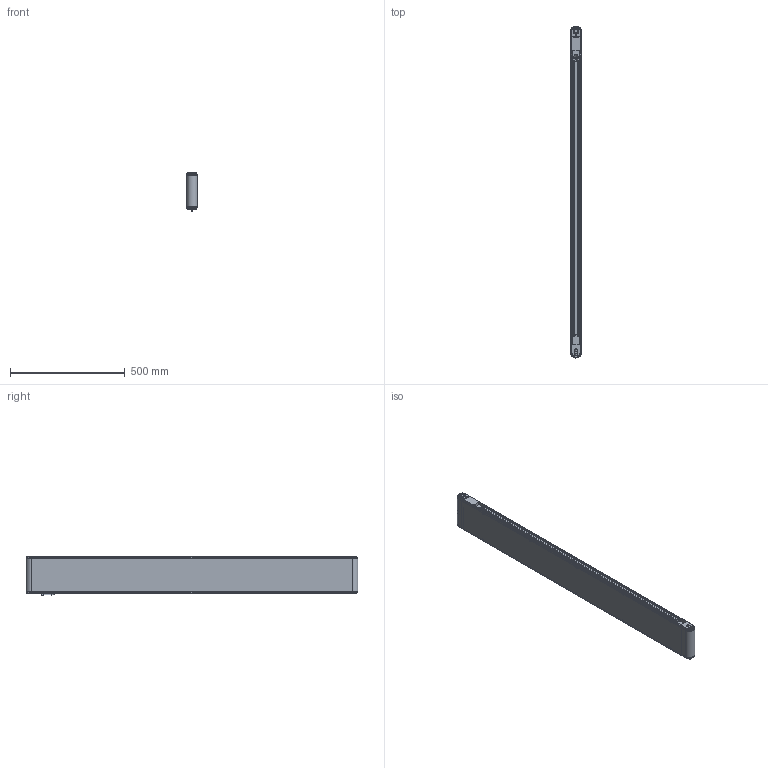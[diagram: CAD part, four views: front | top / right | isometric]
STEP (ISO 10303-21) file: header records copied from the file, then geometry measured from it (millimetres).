
FILE_DESCRIPTION(/* description */ (''),/* implementation_level */ '2;1');
FILE_NAME(/* name */ 'G:\DATEN\CAD\Förderband\Marketing\3D-Modelle (Standard)\FR-40-160\FR-40-160-1400-K.stp',/* time_stamp */ '2019-05-08T09:10:34+02:00',/* author */ ('melanie.ochs'),/* organization */ (''),/* preprocessor_version */ 'ST-DEVELOPER v17',/* originating_system */ 'Autodesk Inventor 2019',/* authorisation */ '');
FILE_SCHEMA (('CONFIG_CONTROL_DESIGN'));
Length unit declared in the file: centimetre
Products named in the file (1): FR-40-160-1400-K
Bounding box: 46.6 x 1446.6 x 168.51 mm (x, y, z)
Volume: 3107861.8 mm3; surface area: 1686102 mm2
Topology: 6 solids, 25 shells, 1008 faces, 2806 edges, 1885 vertices
Faces by surface type: plane 511, cylinder 282, bspline 122, cone 68, torus 25
Full cylindrical faces by diameter (mm): 2 x2, 4 x6, 4.3 x4, 4.917 x1, 5 x11, 5.5 x8, 6 x4, 6.5 x1, 6.647 x3, 8 x4, 8.3 x10, 8.5 x8, 8.773 x1, 10 x1, 11 x1, 12 x5, 15 x2, 20 x4, 25 x2, 28 x4
Entity records: 34902 total; most frequent: CARTESIAN_POINT 8259, ORIENTED_EDGE 5582, DIRECTION 5044, EDGE_CURVE 2791, VERTEX_POINT 1885, AXIS2_PLACEMENT_3D 1758, LINE 1528, VECTOR 1528
